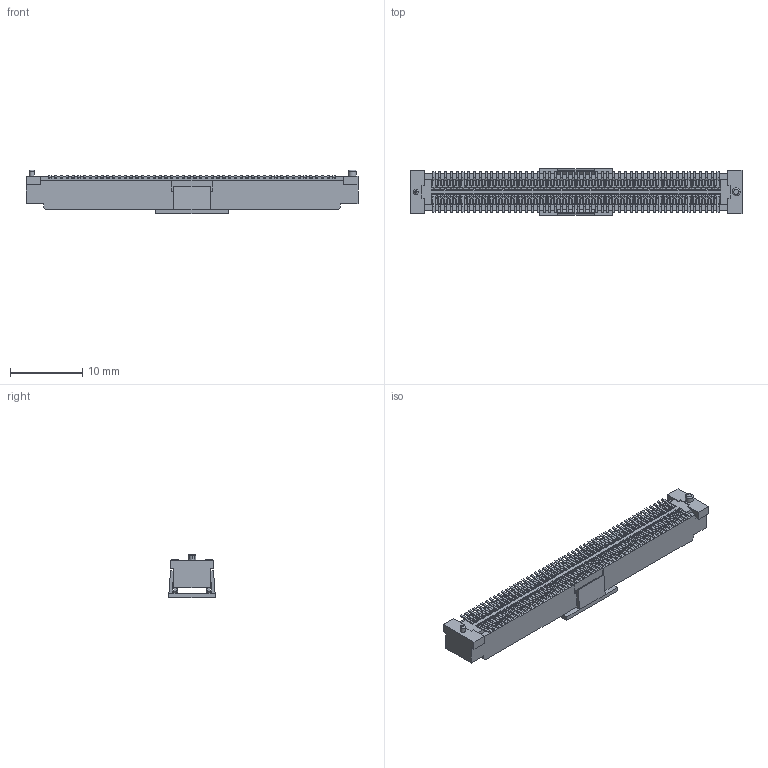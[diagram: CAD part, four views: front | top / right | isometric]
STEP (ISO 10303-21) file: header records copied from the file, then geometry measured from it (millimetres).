
FILE_DESCRIPTION((''),'2;1');
FILE_NAME('S-51038-100XX-XXX_ASM','2013-04-29T',('Rd_05'),(''),'PRO/ENGINEER BY PARAMETRIC TECHNOLOGY CORPORATION, 2009360','PRO/ENGINEER BY PARAMETRIC TECHNOLOGY CORPORATION, 2009360','');
FILE_SCHEMA(('CONFIG_CONTROL_DESIGN'));
Products named in the file (1): S-51038-100XX-XXX_ASM
Bounding box: 45.8 x 6.38 x 6 mm (x, y, z)
Volume: 556.5 mm3; surface area: 2390.1 mm2
Topology: 1 solids, 1 shells, 8443 faces, 25180 edges, 16138 vertices
Faces by surface type: plane 7229, cylinder 1210, bspline 2, torus 2
Entity records: 278624 total; most frequent: CARTESIAN_POINT 51039, ORIENTED_EDGE 50360, DIRECTION 43684, EDGE_CURVE 25180, VECTOR 22750, LINE 22750, VERTEX_POINT 16138, AXIS2_PLACEMENT_3D 10467
